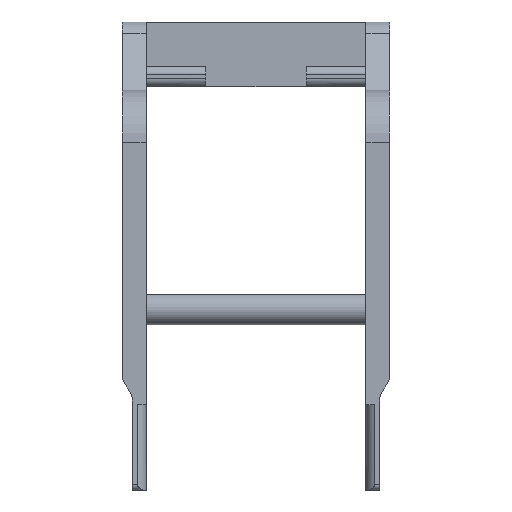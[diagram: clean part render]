
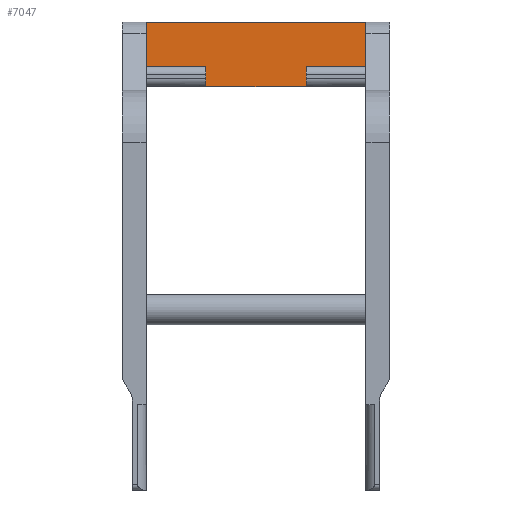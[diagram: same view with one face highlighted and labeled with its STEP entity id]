
A CAD part, front view. The second image highlights one B-rep face of the part: STEP entity #7047.
In plain terms, the highlighted planar face has unit normal (0, -1, 0).
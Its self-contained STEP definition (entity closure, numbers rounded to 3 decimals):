
#43 = VECTOR ( 'NONE', #5344, 1000. ) ;
#90 = EDGE_CURVE ( 'NONE', #6233, #8099, #2511, .T. ) ;
#255 = DIRECTION ( 'NONE',  ( 0., 0., -1. ) ) ;
#402 = CARTESIAN_POINT ( 'NONE',  ( 6.45, 31.055, 1.141 ) ) ;
#520 = VECTOR ( 'NONE', #7930, 1000. ) ;
#562 = FACE_OUTER_BOUND ( 'NONE', #2835, .T. ) ;
#645 = EDGE_CURVE ( 'NONE', #5549, #3127, #7008, .T. ) ;
#667 = LINE ( 'NONE', #1497, #8129 ) ;
#1235 = VERTEX_POINT ( 'NONE', #7883 ) ;
#1237 = LINE ( 'NONE', #5466, #6715 ) ;
#1280 = DIRECTION ( 'NONE',  ( 1., 0., 0. ) ) ;
#1281 = ORIENTED_EDGE ( 'NONE', *, *, #3318, .F. ) ;
#1409 = VERTEX_POINT ( 'NONE', #8717 ) ;
#1420 = VERTEX_POINT ( 'NONE', #9143 ) ;
#1444 = EDGE_CURVE ( 'NONE', #4954, #4570, #8047, .T. ) ;
#1497 = CARTESIAN_POINT ( 'NONE',  ( -2.95, 31.055, 4.391 ) ) ;
#1568 = LINE ( 'NONE', #2581, #5042 ) ;
#1573 = CARTESIAN_POINT ( 'NONE',  ( 2.95, 31.055, 4.391 ) ) ;
#1635 = ORIENTED_EDGE ( 'NONE', *, *, #4483, .T. ) ;
#1646 = DIRECTION ( 'NONE',  ( 1., 0., 0. ) ) ;
#1711 = CARTESIAN_POINT ( 'NONE',  ( 2.95, 31.055, 5.591 ) ) ;
#1736 = LINE ( 'NONE', #3126, #43 ) ;
#1755 = ORIENTED_EDGE ( 'NONE', *, *, #8357, .T. ) ;
#1882 = ORIENTED_EDGE ( 'NONE', *, *, #1444, .T. ) ;
#1908 = DIRECTION ( 'NONE',  ( 0., 0., -1. ) ) ;
#2014 = CARTESIAN_POINT ( 'NONE',  ( -5.45, 31.055, 4.391 ) ) ;
#2511 = LINE ( 'NONE', #5431, #6651 ) ;
#2572 = VECTOR ( 'NONE', #255, 1000. ) ;
#2581 = CARTESIAN_POINT ( 'NONE',  ( -2.95, 31.055, 5.591 ) ) ;
#2642 = DIRECTION ( 'NONE',  ( -1., 0., 0. ) ) ;
#2647 = DIRECTION ( 'NONE',  ( 0., 0., 1. ) ) ;
#2751 = CARTESIAN_POINT ( 'NONE',  ( -6.45, 31.055, 1.141 ) ) ;
#2763 = LINE ( 'NONE', #6911, #8362 ) ;
#2835 = EDGE_LOOP ( 'NONE', ( #3321, #7152, #4985, #1755, #8678, #1882, #6922, #1635, #4412, #1281, #6987, #6404 ) ) ;
#3126 = CARTESIAN_POINT ( 'NONE',  ( 5.45, 31.055, 6.191 ) ) ;
#3127 = VERTEX_POINT ( 'NONE', #8087 ) ;
#3128 = VERTEX_POINT ( 'NONE', #9250 ) ;
#3318 = EDGE_CURVE ( 'NONE', #1420, #3127, #4431, .T. ) ;
#3321 = ORIENTED_EDGE ( 'NONE', *, *, #90, .F. ) ;
#3418 = EDGE_CURVE ( 'NONE', #1420, #1409, #3740, .T. ) ;
#3591 = DIRECTION ( 'NONE',  ( 0., 0., -1. ) ) ;
#3740 = LINE ( 'NONE', #2751, #2572 ) ;
#3891 = CARTESIAN_POINT ( 'NONE',  ( -18.12, 31.055, 8.191 ) ) ;
#4008 = VECTOR ( 'NONE', #8808, 1000. ) ;
#4049 = DIRECTION ( 'NONE',  ( 1., 0., 0. ) ) ;
#4212 = VECTOR ( 'NONE', #2647, 1000. ) ;
#4218 = CARTESIAN_POINT ( 'NONE',  ( -2.95, 31.055, 4.391 ) ) ;
#4225 = VECTOR ( 'NONE', #4049, 1000. ) ;
#4412 = ORIENTED_EDGE ( 'NONE', *, *, #645, .T. ) ;
#4431 = LINE ( 'NONE', #3891, #4008 ) ;
#4457 = VERTEX_POINT ( 'NONE', #4218 ) ;
#4483 = EDGE_CURVE ( 'NONE', #3128, #5549, #6428, .T. ) ;
#4511 = EDGE_CURVE ( 'NONE', #1409, #8099, #4693, .T. ) ;
#4570 = VERTEX_POINT ( 'NONE', #6189 ) ;
#4693 = LINE ( 'NONE', #2014, #520 ) ;
#4936 = CARTESIAN_POINT ( 'NONE',  ( -5.45, 31.055, 4.391 ) ) ;
#4954 = VERTEX_POINT ( 'NONE', #7313 ) ;
#4971 = CARTESIAN_POINT ( 'NONE',  ( 6.45, 31.055, 4.391 ) ) ;
#4985 = ORIENTED_EDGE ( 'NONE', *, *, #8155, .T. ) ;
#5042 = VECTOR ( 'NONE', #2642, 1000. ) ;
#5107 = EDGE_CURVE ( 'NONE', #4570, #3128, #1736, .T. ) ;
#5344 = DIRECTION ( 'NONE',  ( 0., 0., -1. ) ) ;
#5370 = DIRECTION ( 'NONE',  ( 0., 0., -1. ) ) ;
#5431 = CARTESIAN_POINT ( 'NONE',  ( -5.45, 31.055, 6.191 ) ) ;
#5466 = CARTESIAN_POINT ( 'NONE',  ( -18.12, 31.055, 4.391 ) ) ;
#5531 = AXIS2_PLACEMENT_3D ( 'NONE', #8375, #8568, #8230 ) ;
#5549 = VERTEX_POINT ( 'NONE', #4971 ) ;
#6189 = CARTESIAN_POINT ( 'NONE',  ( 5.45, 31.055, 5.591 ) ) ;
#6233 = VERTEX_POINT ( 'NONE', #6400 ) ;
#6400 = CARTESIAN_POINT ( 'NONE',  ( -5.45, 31.055, 5.591 ) ) ;
#6404 = ORIENTED_EDGE ( 'NONE', *, *, #4511, .T. ) ;
#6428 = LINE ( 'NONE', #6858, #4225 ) ;
#6651 = VECTOR ( 'NONE', #5370, 1000. ) ;
#6715 = VECTOR ( 'NONE', #1280, 1000. ) ;
#6858 = CARTESIAN_POINT ( 'NONE',  ( 5.45, 31.055, 4.391 ) ) ;
#6911 = CARTESIAN_POINT ( 'NONE',  ( 2.95, 31.055, 4.391 ) ) ;
#6922 = ORIENTED_EDGE ( 'NONE', *, *, #5107, .T. ) ;
#6987 = ORIENTED_EDGE ( 'NONE', *, *, #3418, .T. ) ;
#7008 = LINE ( 'NONE', #402, #4212 ) ;
#7047 = ADVANCED_FACE ( 'NONE', ( #562 ), #8266, .T. ) ;
#7152 = ORIENTED_EDGE ( 'NONE', *, *, #7201, .F. ) ;
#7201 = EDGE_CURVE ( 'NONE', #1235, #6233, #1568, .T. ) ;
#7313 = CARTESIAN_POINT ( 'NONE',  ( 2.95, 31.055, 5.591 ) ) ;
#7883 = CARTESIAN_POINT ( 'NONE',  ( -2.95, 31.055, 5.591 ) ) ;
#7930 = DIRECTION ( 'NONE',  ( 1., 0., 0. ) ) ;
#8047 = LINE ( 'NONE', #1711, #8053 ) ;
#8053 = VECTOR ( 'NONE', #1646, 1000. ) ;
#8087 = CARTESIAN_POINT ( 'NONE',  ( 6.45, 31.055, 8.191 ) ) ;
#8099 = VERTEX_POINT ( 'NONE', #4936 ) ;
#8129 = VECTOR ( 'NONE', #3591, 1000. ) ;
#8155 = EDGE_CURVE ( 'NONE', #1235, #4457, #667, .T. ) ;
#8230 = DIRECTION ( 'NONE',  ( 0., 0., -1. ) ) ;
#8266 = PLANE ( 'NONE',  #5531 ) ;
#8357 = EDGE_CURVE ( 'NONE', #4457, #9034, #1237, .T. ) ;
#8362 = VECTOR ( 'NONE', #1908, 1000. ) ;
#8375 = CARTESIAN_POINT ( 'NONE',  ( -18.12, 31.055, 4.391 ) ) ;
#8568 = DIRECTION ( 'NONE',  ( 0., -1., 0. ) ) ;
#8678 = ORIENTED_EDGE ( 'NONE', *, *, #9238, .F. ) ;
#8717 = CARTESIAN_POINT ( 'NONE',  ( -6.45, 31.055, 4.391 ) ) ;
#8808 = DIRECTION ( 'NONE',  ( 1., 0., 0. ) ) ;
#9034 = VERTEX_POINT ( 'NONE', #1573 ) ;
#9143 = CARTESIAN_POINT ( 'NONE',  ( -6.45, 31.055, 8.191 ) ) ;
#9238 = EDGE_CURVE ( 'NONE', #4954, #9034, #2763, .T. ) ;
#9250 = CARTESIAN_POINT ( 'NONE',  ( 5.45, 31.055, 4.391 ) ) ;
